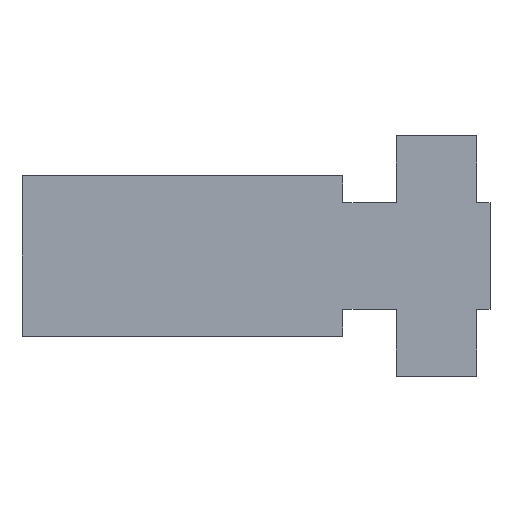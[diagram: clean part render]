
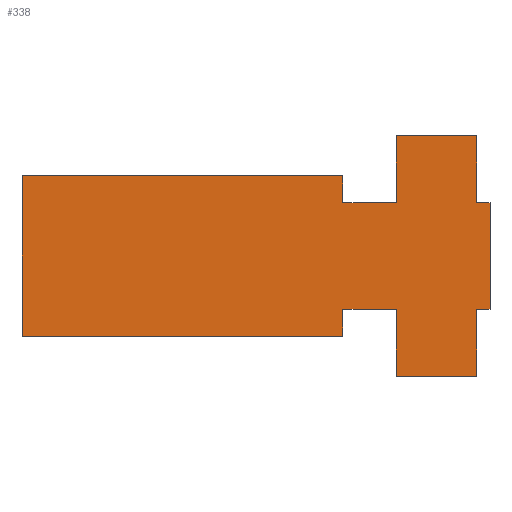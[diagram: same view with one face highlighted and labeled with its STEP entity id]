
A CAD part, left-side view. The second image highlights one B-rep face of the part: STEP entity #338.
In plain terms, the highlighted planar face has unit normal (-1, 0, 0).
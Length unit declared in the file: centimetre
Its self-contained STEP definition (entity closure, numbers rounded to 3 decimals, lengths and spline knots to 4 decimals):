
#105=VECTOR('',#390,1.);
#106=VECTOR('',#391,1.);
#107=VECTOR('',#392,1.);
#108=VECTOR('',#393,1.);
#109=VECTOR('',#394,1.);
#110=VECTOR('',#395,1.);
#111=VECTOR('',#396,1.);
#112=VECTOR('',#397,1.);
#113=VECTOR('',#398,1.);
#114=VECTOR('',#399,1.);
#115=VECTOR('',#400,1.);
#116=VECTOR('',#401,1.);
#117=VECTOR('',#402,1.);
#126=LINE('',#453,#105);
#127=LINE('',#456,#106);
#128=LINE('',#458,#107);
#129=LINE('',#460,#108);
#130=LINE('',#462,#109);
#131=LINE('',#464,#110);
#132=LINE('',#466,#111);
#133=LINE('',#468,#112);
#134=LINE('',#470,#113);
#135=LINE('',#472,#114);
#136=LINE('',#475,#115);
#137=LINE('',#478,#116);
#138=LINE('',#481,#117);
#149=PLANE('',#358);
#162=VERTEX_POINT('',#454);
#163=VERTEX_POINT('',#455);
#164=VERTEX_POINT('',#457);
#165=VERTEX_POINT('',#459);
#166=VERTEX_POINT('',#461);
#167=VERTEX_POINT('',#463);
#168=VERTEX_POINT('',#465);
#169=VERTEX_POINT('',#467);
#170=VERTEX_POINT('',#469);
#171=VERTEX_POINT('',#471);
#172=VERTEX_POINT('',#473);
#173=VERTEX_POINT('',#474);
#174=VERTEX_POINT('',#476);
#175=VERTEX_POINT('',#477);
#176=VERTEX_POINT('',#479);
#177=VERTEX_POINT('',#480);
#195=EDGE_CURVE('',#162,#163,#126,.T.);
#196=EDGE_CURVE('',#164,#163,#127,.T.);
#197=EDGE_CURVE('',#164,#165,#128,.T.);
#198=EDGE_CURVE('',#166,#165,#129,.T.);
#199=EDGE_CURVE('',#166,#167,#130,.T.);
#200=EDGE_CURVE('',#168,#167,#131,.T.);
#201=EDGE_CURVE('',#168,#169,#132,.T.);
#202=EDGE_CURVE('',#170,#169,#133,.T.);
#203=EDGE_CURVE('',#170,#171,#134,.T.);
#204=EDGE_CURVE('',#171,#172,#135,.T.);
#205=EDGE_CURVE('',#172,#173,#132,.T.);
#206=EDGE_CURVE('',#173,#174,#136,.T.);
#207=EDGE_CURVE('',#174,#175,#130,.T.);
#208=EDGE_CURVE('',#175,#176,#137,.T.);
#209=EDGE_CURVE('',#176,#177,#128,.T.);
#210=EDGE_CURVE('',#177,#162,#138,.T.);
#231=ORIENTED_EDGE('',*,*,#195,.T.);
#232=ORIENTED_EDGE('',*,*,#196,.F.);
#233=ORIENTED_EDGE('',*,*,#197,.T.);
#234=ORIENTED_EDGE('',*,*,#198,.F.);
#235=ORIENTED_EDGE('',*,*,#199,.T.);
#236=ORIENTED_EDGE('',*,*,#200,.F.);
#237=ORIENTED_EDGE('',*,*,#201,.T.);
#238=ORIENTED_EDGE('',*,*,#202,.F.);
#239=ORIENTED_EDGE('',*,*,#203,.T.);
#240=ORIENTED_EDGE('',*,*,#204,.T.);
#241=ORIENTED_EDGE('',*,*,#205,.T.);
#242=ORIENTED_EDGE('',*,*,#206,.T.);
#243=ORIENTED_EDGE('',*,*,#207,.T.);
#244=ORIENTED_EDGE('',*,*,#208,.T.);
#245=ORIENTED_EDGE('',*,*,#209,.T.);
#246=ORIENTED_EDGE('',*,*,#210,.T.);
#299=EDGE_LOOP('',(#231,#232,#233,#234,#235,#236,#237,#238,#239,#240,#241,
#242,#243,#244,#245,#246));
#319=FACE_BOUND('',#299,.T.);
#338=ADVANCED_FACE('',(#319),#149,.T.);
#358=AXIS2_PLACEMENT_3D('',#452,#389,$);
#389=DIRECTION('',(-1.,0.,0.));
#390=DIRECTION('',(0.,0.,-1.));
#391=DIRECTION('',(0.,1.,0.));
#392=DIRECTION('',(0.,0.,1.));
#393=DIRECTION('',(0.,1.,0.));
#394=DIRECTION('',(0.,0.,-1.));
#395=DIRECTION('',(0.,1.,0.));
#396=DIRECTION('',(0.,0.,1.));
#397=DIRECTION('',(0.,1.,0.));
#398=DIRECTION('',(0.,0.,1.));
#399=DIRECTION('',(0.,1.,0.));
#400=DIRECTION('',(0.,1.,0.));
#401=DIRECTION('',(0.,1.,0.));
#402=DIRECTION('',(0.,1.,0.));
#452=CARTESIAN_POINT('',(0.,7.7527,-1.905));
#453=CARTESIAN_POINT('',(0.,11.1125,-12.5212));
#454=CARTESIAN_POINT('',(0.,11.1125,1.905));
#455=CARTESIAN_POINT('',(0.,11.1125,-1.905));
#456=CARTESIAN_POINT('',(0.,3.4925,-1.905));
#457=CARTESIAN_POINT('',(0.,3.4925,-1.905));
#458=CARTESIAN_POINT('',(0.,3.4925,-1.905));
#459=CARTESIAN_POINT('',(0.,3.4925,-1.27));
#460=CARTESIAN_POINT('',(0.,2.2225,-1.27));
#461=CARTESIAN_POINT('',(0.,2.2225,-1.27));
#462=CARTESIAN_POINT('',(0.,2.2225,-2.8575));
#463=CARTESIAN_POINT('',(0.,2.2225,-2.8575));
#464=CARTESIAN_POINT('',(0.,0.3175,-2.8575));
#465=CARTESIAN_POINT('',(0.,0.3175,-2.8575));
#466=CARTESIAN_POINT('',(0.,0.3175,-2.8575));
#467=CARTESIAN_POINT('',(0.,0.3175,-1.27));
#468=CARTESIAN_POINT('',(0.,0.,-1.27));
#469=CARTESIAN_POINT('',(0.,0.,-1.27));
#470=CARTESIAN_POINT('',(0.,0.,-1.27));
#471=CARTESIAN_POINT('',(0.,0.,1.27));
#472=CARTESIAN_POINT('',(0.,0.,1.27));
#473=CARTESIAN_POINT('',(0.,0.3175,1.27));
#474=CARTESIAN_POINT('',(0.,0.3175,2.8575));
#475=CARTESIAN_POINT('',(0.,0.3175,2.8575));
#476=CARTESIAN_POINT('',(0.,2.2225,2.8575));
#477=CARTESIAN_POINT('',(0.,2.2225,1.27));
#478=CARTESIAN_POINT('',(0.,2.2225,1.27));
#479=CARTESIAN_POINT('',(0.,3.4925,1.27));
#480=CARTESIAN_POINT('',(0.,3.4925,1.905));
#481=CARTESIAN_POINT('',(0.,3.4925,1.905));
